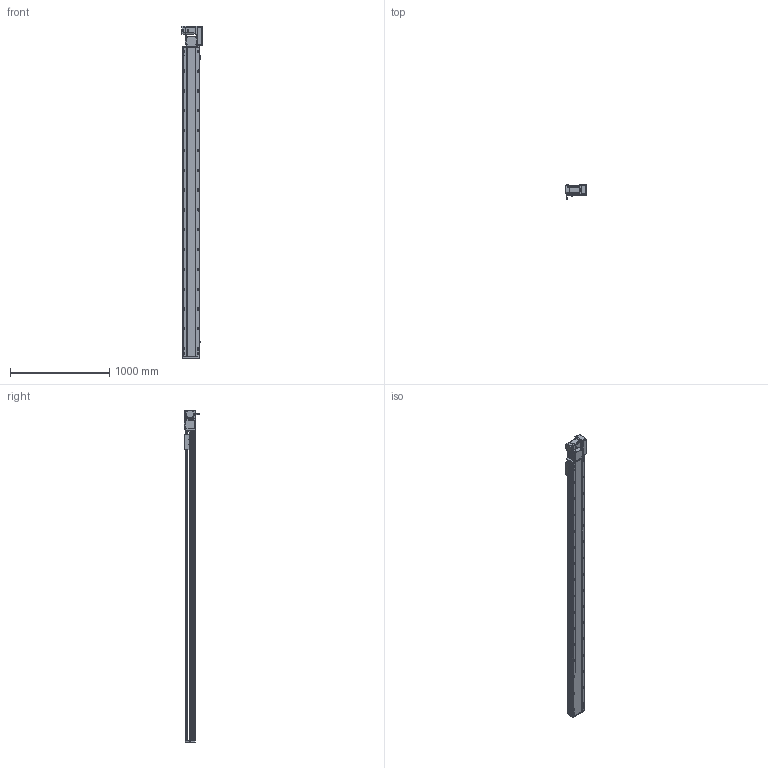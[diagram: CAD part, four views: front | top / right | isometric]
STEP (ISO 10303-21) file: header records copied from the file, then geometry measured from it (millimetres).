
FILE_DESCRIPTION (( 'STEP AP214' ), '1' );
FILE_NAME ('RTB17S-XX-2850-R-M75-C4.STEP', '2025-12-12T01:49:40', ( '' ), ( '' ), 'SwSTEP 2.0', 'SolidWorks 2018', '' );
FILE_SCHEMA (( 'AUTOMOTIVE_DESIGN' ));
Length unit declared in the file: millimetre
Products named in the file (15): RTB17S-L-007奻裔^RTB17S-XX-XX-R-M75-C4; RTB17S-L-001-耜醱啣^RTB17S-XX-XX-R-M75-C4; RTB17S-賑釱^RTB17S-XX-XX-R-M75-C4; RTB22S-GY-008-M75--萇儂啣^RTB17S-R-々湍釱蚾饜-750W_RTB17S-XX-XX-R-M75-C4; RTB17S-R-々湍釱蚾饜-750W^RTB17S-XX-XX-R-M75-C4; EE672^RTB17S-XX-XX-R-M75-C4; RTB22S-GY-018P^RTB17S-R-々湍釱蚾饜-750W_RTB17S-XX-XX-R-M75-C4; 750W萇儂^RTB17S-XX-XX-R-M75-C4; RTB17S-L-014-T20-P75--々湍釱^RTB17S-R-々湍釱蚾饜-750W_RTB17S-XX-XX-R-M75-C4; RTB17S-XX-2850-R-M75-C4; RTB22S-GY-017P^RTB17S-R-々湍釱蚾饜-750W_RTB17S-XX-XX-R-M75-C4; RTH13-BL-012覜茼え俋离^RTB17S-賑釱_RTB17S-XX-XX-R-M75-C4; RTB22S-GY-005P^RTB17S-R-々湍釱蚾饜-750W_RTB17S-XX-XX-R-M75-C4; RTB17-R-011菁釱^RTB17S-XX-XX-R-M75-C4; RTB17S-L-004-賑釱^RTB17S-賑釱_RTB17S-XX-XX-R-M75-C4
Assembly tree (17 placements, depth 3):
  RTB17S-XX-2850-R-M75-C4
    RTB17-R-011菁釱^RTB17S-XX-XX-R-M75-C4
    EE672^RTB17S-XX-XX-R-M75-C4  x3
    RTB17S-L-001-耜醱啣^RTB17S-XX-XX-R-M75-C4
    RTB17S-賑釱^RTB17S-XX-XX-R-M75-C4
      RTB17S-L-004-賑釱^RTB17S-賑釱_RTB17S-XX-XX-R-M75-C4
      RTH13-BL-012覜茼え俋离^RTB17S-賑釱_RTB17S-XX-XX-R-M75-C4
    RTB17S-L-007奻裔^RTB17S-XX-XX-R-M75-C4
    750W萇儂^RTB17S-XX-XX-R-M75-C4
    RTB17S-R-々湍釱蚾饜-750W^RTB17S-XX-XX-R-M75-C4
      RTB17S-L-014-T20-P75--々湍釱^RTB17S-R-々湍釱蚾饜-750W_RTB17S-XX-XX-R-M75-C4
      RTB22S-GY-005P^RTB17S-R-々湍釱蚾饜-750W_RTB17S-XX-XX-R-M75-C4
      RTB22S-GY-017P^RTB17S-R-々湍釱蚾饜-750W_RTB17S-XX-XX-R-M75-C4  x2
      RTB22S-GY-008-M75--萇儂啣^RTB17S-R-々湍釱蚾饜-750W_RTB17S-XX-XX-R-M75-C4
      RTB22S-GY-018P^RTB17S-R-々湍釱蚾饜-750W_RTB17S-XX-XX-R-M75-C4
Bounding box: 207.4 x 152.7 x 3349 mm (x, y, z)
Volume: 23760540.7 mm3; surface area: 4345126.7 mm2
Topology: 17 solids, 17 shells, 2249 faces, 6322 edges, 4094 vertices
Faces by surface type: plane 990, cylinder 843, bspline 294, cone 110, sphere 8, torus 4
Entity records: 65782 total; most frequent: CARTESIAN_POINT 19586, ORIENTED_EDGE 9488, DIRECTION 8762, EDGE_CURVE 4744, AXIS2_PLACEMENT_3D 3114, VERTEX_POINT 3098, LINE 2534, VECTOR 2534
